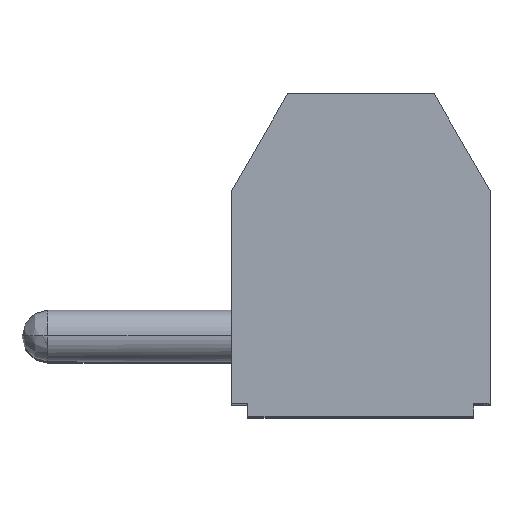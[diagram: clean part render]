
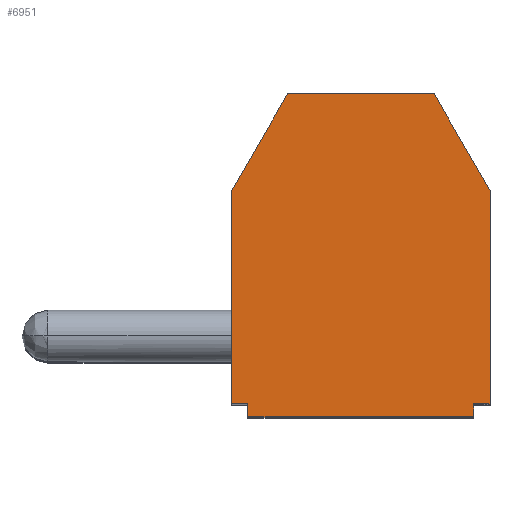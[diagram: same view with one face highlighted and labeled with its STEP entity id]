
A CAD part, top view. The second image highlights one B-rep face of the part: STEP entity #6951.
In plain terms, the highlighted planar face has unit normal (0, 0, 1).
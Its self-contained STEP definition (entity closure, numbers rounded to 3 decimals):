
#6416 = VERTEX_POINT ( 'NONE', #16708 ) ;
#6418 = EDGE_CURVE ( 'NONE', #6419, #6416, #16707, .T. ) ;
#6419 = VERTEX_POINT ( 'NONE', #16703 ) ;
#6596 = VERTEX_POINT ( 'NONE', #16976 ) ;
#6598 = EDGE_CURVE ( 'NONE', #6599, #6596, #16975, .T. ) ;
#6599 = VERTEX_POINT ( 'NONE', #16971 ) ;
#6647 = EDGE_CURVE ( 'NONE', #6660, #6599, #17090, .T. ) ;
#6660 = VERTEX_POINT ( 'NONE', #17061 ) ;
#6662 = EDGE_CURVE ( 'NONE', #6416, #6660, #17060, .T. ) ;
#6769 = EDGE_CURVE ( 'NONE', #6596, #6774, #17145, .T. ) ;
#6774 = VERTEX_POINT ( 'NONE', #17136 ) ;
#6779 = EDGE_CURVE ( 'NONE', #6774, #6788, #17131, .T. ) ;
#6788 = VERTEX_POINT ( 'NONE', #17179 ) ;
#6794 = VERTEX_POINT ( 'NONE', #17169 ) ;
#6796 = EDGE_CURVE ( 'NONE', #6788, #6794, #17168, .T. ) ;
#6940 = ORIENTED_EDGE ( 'NONE', *, *, #6977, .T. ) ;
#6941 = ORIENTED_EDGE ( 'NONE', *, *, #6418, .T. ) ;
#6951 = ADVANCED_FACE ( 'NONE', ( #17270 ), #17265, .T. ) ;
#6952 = EDGE_LOOP ( 'NONE', ( #6953, #6954, #6955, #7018, #7019, #7020, #7021, #7024, #6940, #6941 ) ) ;
#6953 = ORIENTED_EDGE ( 'NONE', *, *, #6662, .T. ) ;
#6954 = ORIENTED_EDGE ( 'NONE', *, *, #6647, .T. ) ;
#6955 = ORIENTED_EDGE ( 'NONE', *, *, #6598, .T. ) ;
#6977 = EDGE_CURVE ( 'NONE', #6978, #6419, #17320, .T. ) ;
#6978 = VERTEX_POINT ( 'NONE', #17316 ) ;
#7018 = ORIENTED_EDGE ( 'NONE', *, *, #6769, .T. ) ;
#7019 = ORIENTED_EDGE ( 'NONE', *, *, #6779, .T. ) ;
#7020 = ORIENTED_EDGE ( 'NONE', *, *, #6796, .T. ) ;
#7021 = ORIENTED_EDGE ( 'NONE', *, *, #7022, .F. ) ;
#7022 = EDGE_CURVE ( 'NONE', #7023, #6794, #17325, .T. ) ;
#7023 = VERTEX_POINT ( 'NONE', #17321 ) ;
#7024 = ORIENTED_EDGE ( 'NONE', *, *, #7025, .F. ) ;
#7025 = EDGE_CURVE ( 'NONE', #6978, #7023, #17387, .T. ) ;
#16703 = CARTESIAN_POINT ( 'NONE',  ( -3.062, -2.845, 0. ) ) ;
#16704 = DIRECTION ( 'NONE',  ( 0., -1., 0. ) ) ;
#16705 = VECTOR ( 'NONE', #16704, 1000. ) ;
#16706 = CARTESIAN_POINT ( 'NONE',  ( -3.062, -3.045, 0. ) ) ;
#16707 = LINE ( 'NONE', #16706, #16705 ) ;
#16708 = CARTESIAN_POINT ( 'NONE',  ( -3.062, -3.245, 0. ) ) ;
#16971 = CARTESIAN_POINT ( 'NONE',  ( 3.938, -2.845, 0. ) ) ;
#16972 = DIRECTION ( 'NONE',  ( 1., 0., 0. ) ) ;
#16973 = VECTOR ( 'NONE', #16972, 1000. ) ;
#16974 = CARTESIAN_POINT ( 'NONE',  ( 0.438, -2.845, 0. ) ) ;
#16975 = LINE ( 'NONE', #16974, #16973 ) ;
#16976 = CARTESIAN_POINT ( 'NONE',  ( 4.438, -2.845, 0. ) ) ;
#17058 = VECTOR ( 'NONE', #17125, 1000. ) ;
#17059 = CARTESIAN_POINT ( 'NONE',  ( 0.438, -3.245, 0. ) ) ;
#17060 = LINE ( 'NONE', #17059, #17058 ) ;
#17061 = CARTESIAN_POINT ( 'NONE',  ( 3.938, -3.245, 0. ) ) ;
#17087 = DIRECTION ( 'NONE',  ( 0., 1., 0. ) ) ;
#17088 = VECTOR ( 'NONE', #17087, 1000. ) ;
#17089 = CARTESIAN_POINT ( 'NONE',  ( 3.938, 1.755, 0. ) ) ;
#17090 = LINE ( 'NONE', #17089, #17088 ) ;
#17125 = DIRECTION ( 'NONE',  ( 1., 0., 0. ) ) ;
#17128 = DIRECTION ( 'NONE',  ( -0.5, 0.866, 0. ) ) ;
#17129 = VECTOR ( 'NONE', #17128, 1000. ) ;
#17130 = CARTESIAN_POINT ( 'NONE',  ( 4.438, 3.755, 0. ) ) ;
#17131 = LINE ( 'NONE', #17130, #17129 ) ;
#17136 = CARTESIAN_POINT ( 'NONE',  ( 4.438, 3.755, 0. ) ) ;
#17142 = DIRECTION ( 'NONE',  ( 0., 1., 0. ) ) ;
#17143 = VECTOR ( 'NONE', #17142, 1000. ) ;
#17144 = CARTESIAN_POINT ( 'NONE',  ( 4.438, 1.755, 0. ) ) ;
#17145 = LINE ( 'NONE', #17144, #17143 ) ;
#17165 = DIRECTION ( 'NONE',  ( -1., 0., 0. ) ) ;
#17166 = VECTOR ( 'NONE', #17165, 1000. ) ;
#17167 = CARTESIAN_POINT ( 'NONE',  ( 0.438, 6.755, 0. ) ) ;
#17168 = LINE ( 'NONE', #17167, #17166 ) ;
#17169 = CARTESIAN_POINT ( 'NONE',  ( -1.83, 6.755, 0. ) ) ;
#17179 = CARTESIAN_POINT ( 'NONE',  ( 2.706, 6.755, 0. ) ) ;
#17261 = DIRECTION ( 'NONE',  ( 1., 0., 0. ) ) ;
#17262 = DIRECTION ( 'NONE',  ( 0., 0., 1. ) ) ;
#17263 = CARTESIAN_POINT ( 'NONE',  ( -3.562, -3.245, 0. ) ) ;
#17264 = AXIS2_PLACEMENT_3D ( 'NONE', #17263, #17262, #17261 ) ;
#17265 = PLANE ( 'NONE',  #17264 ) ;
#17270 = FACE_OUTER_BOUND ( 'NONE', #6952, .T. ) ;
#17316 = CARTESIAN_POINT ( 'NONE',  ( -3.562, -2.845, 0. ) ) ;
#17317 = DIRECTION ( 'NONE',  ( 1., 0., 0. ) ) ;
#17318 = VECTOR ( 'NONE', #17317, 1000. ) ;
#17319 = CARTESIAN_POINT ( 'NONE',  ( 0.438, -2.845, 0. ) ) ;
#17320 = LINE ( 'NONE', #17319, #17318 ) ;
#17321 = CARTESIAN_POINT ( 'NONE',  ( -3.562, 3.755, 0. ) ) ;
#17322 = DIRECTION ( 'NONE',  ( 0.5, 0.866, 0. ) ) ;
#17323 = VECTOR ( 'NONE', #17322, 1000. ) ;
#17324 = CARTESIAN_POINT ( 'NONE',  ( -2.696, 5.255, 0. ) ) ;
#17325 = LINE ( 'NONE', #17324, #17323 ) ;
#17384 = DIRECTION ( 'NONE',  ( 0., 1., 0. ) ) ;
#17385 = VECTOR ( 'NONE', #17384, 1000. ) ;
#17386 = CARTESIAN_POINT ( 'NONE',  ( -3.562, 0.455, 0. ) ) ;
#17387 = LINE ( 'NONE', #17386, #17385 ) ;
